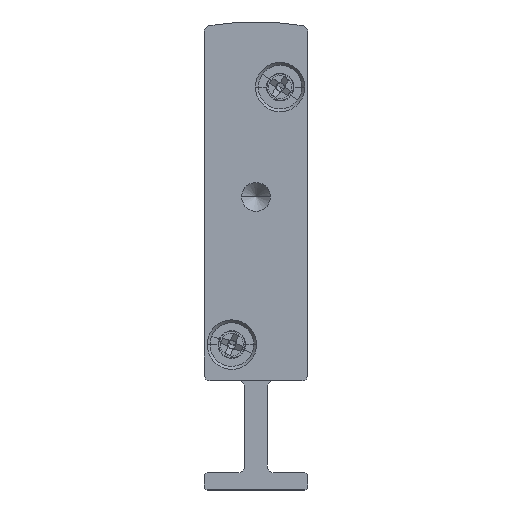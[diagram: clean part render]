
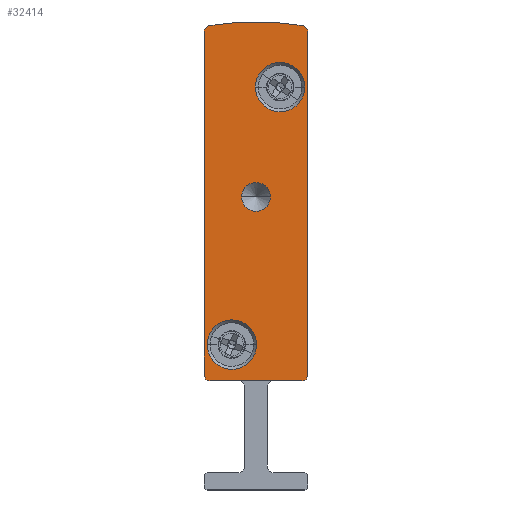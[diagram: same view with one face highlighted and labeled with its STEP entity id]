
A CAD part, front view. The second image highlights one B-rep face of the part: STEP entity #32414.
In plain terms, the highlighted planar face has unit normal (0, -1, 0).
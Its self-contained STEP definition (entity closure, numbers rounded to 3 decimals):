
#592 = CARTESIAN_POINT ( 'NONE',  ( 4.5, -2.5, 25.5 ) ) ;
#829 = CARTESIAN_POINT ( 'NONE',  ( 0.5, -2.5, 9.5 ) ) ;
#910 = DIRECTION ( 'NONE',  ( -1., 0., 0. ) ) ;
#1209 = EDGE_CURVE ( 'NONE', #27557, #11479, #27823, .T. ) ;
#1437 = CARTESIAN_POINT ( 'NONE',  ( 2.4, -2.5, 12.65 ) ) ;
#1661 = AXIS2_PLACEMENT_3D ( 'NONE', #17030, #2956, #5846 ) ;
#1664 = CIRCLE ( 'NONE', #22441, 2.15 ) ;
#1795 = EDGE_CURVE ( 'NONE', #15561, #4873, #24150, .T. ) ;
#1918 = CIRCLE ( 'NONE', #11337, 2.15 ) ;
#2294 = CARTESIAN_POINT ( 'NONE',  ( 0., -2.5, 39.902 ) ) ;
#2490 = DIRECTION ( 'NONE',  ( -1., 0., 0. ) ) ;
#2595 = EDGE_CURVE ( 'NONE', #19910, #15561, #26397, .T. ) ;
#2739 = EDGE_CURVE ( 'NONE', #11479, #27557, #4338, .T. ) ;
#2956 = DIRECTION ( 'NONE',  ( 0., 1., 0. ) ) ;
#3502 = ORIENTED_EDGE ( 'NONE', *, *, #12404, .F. ) ;
#3602 = CARTESIAN_POINT ( 'NONE',  ( 6.6, -2.5, 35.05 ) ) ;
#3994 = DIRECTION ( 'NONE',  ( 0., -1., 0. ) ) ;
#4016 = DIRECTION ( 'NONE',  ( -1., 0., 0. ) ) ;
#4338 = CIRCLE ( 'NONE', #25455, 2.15 ) ;
#4642 = CARTESIAN_POINT ( 'NONE',  ( 8.5, -2.5, 10. ) ) ;
#4873 = VERTEX_POINT ( 'NONE', #22226 ) ;
#5141 = VERTEX_POINT ( 'NONE', #829 ) ;
#5179 = CARTESIAN_POINT ( 'NONE',  ( 0.5, -2.5, 9.5 ) ) ;
#5279 = CIRCLE ( 'NONE', #28458, 0.5 ) ;
#5312 = DIRECTION ( 'NONE',  ( 1., 0., 0. ) ) ;
#5501 = VERTEX_POINT ( 'NONE', #17668 ) ;
#5615 = EDGE_CURVE ( 'NONE', #6338, #24689, #31275, .T. ) ;
#5749 = DIRECTION ( 'NONE',  ( 0., -1., 0. ) ) ;
#5846 = DIRECTION ( 'NONE',  ( -1., 0., 0. ) ) ;
#6338 = VERTEX_POINT ( 'NONE', #24972 ) ;
#6376 = VECTOR ( 'NONE', #28457, 1000. ) ;
#6782 = ORIENTED_EDGE ( 'NONE', *, *, #30866, .F. ) ;
#7370 = ORIENTED_EDGE ( 'NONE', *, *, #20924, .F. ) ;
#7519 = ORIENTED_EDGE ( 'NONE', *, *, #2595, .F. ) ;
#7592 = CARTESIAN_POINT ( 'NONE',  ( 4.5, -2.5, 25.5 ) ) ;
#7686 = ORIENTED_EDGE ( 'NONE', *, *, #1795, .F. ) ;
#7994 = CARTESIAN_POINT ( 'NONE',  ( 9., -2.5, 39.902 ) ) ;
#8205 = CARTESIAN_POINT ( 'NONE',  ( 9., -2.5, 10. ) ) ;
#8349 = AXIS2_PLACEMENT_3D ( 'NONE', #31207, #5749, #5312 ) ;
#8550 = EDGE_CURVE ( 'NONE', #4873, #17502, #18204, .T. ) ;
#8695 = DIRECTION ( 'NONE',  ( 0., -1., 0. ) ) ;
#8776 = AXIS2_PLACEMENT_3D ( 'NONE', #9014, #11594, #8783 ) ;
#8783 = DIRECTION ( 'NONE',  ( -1., 0., 0. ) ) ;
#8815 = CARTESIAN_POINT ( 'NONE',  ( 0.5, -2.5, 10. ) ) ;
#9014 = CARTESIAN_POINT ( 'NONE',  ( 4.5, -2.5, 17.092 ) ) ;
#9110 = AXIS2_PLACEMENT_3D ( 'NONE', #18690, #31601, #910 ) ;
#10361 = EDGE_LOOP ( 'NONE', ( #15528, #21473 ) ) ;
#10365 = EDGE_CURVE ( 'NONE', #30510, #15648, #1664, .T. ) ;
#10928 = DIRECTION ( 'NONE',  ( 0., 1., 0. ) ) ;
#11215 = EDGE_LOOP ( 'NONE', ( #7686, #7519, #27359, #6782, #3502, #31697, #18892, #32006 ) ) ;
#11337 = AXIS2_PLACEMENT_3D ( 'NONE', #1437, #3994, #21951 ) ;
#11402 = CARTESIAN_POINT ( 'NONE',  ( 4.45, -2.5, 35.05 ) ) ;
#11479 = VERTEX_POINT ( 'NONE', #30167 ) ;
#11594 = DIRECTION ( 'NONE',  ( 0., 1., 0. ) ) ;
#12404 = EDGE_CURVE ( 'NONE', #24689, #24984, #5279, .T. ) ;
#13437 = CIRCLE ( 'NONE', #27022, 1.25 ) ;
#13458 = DIRECTION ( 'NONE',  ( 0., 0., 1. ) ) ;
#13543 = CARTESIAN_POINT ( 'NONE',  ( 0., -2.5, 10. ) ) ;
#13548 = CIRCLE ( 'NONE', #1661, 0.5 ) ;
#13564 = VECTOR ( 'NONE', #13458, 1000. ) ;
#13618 = EDGE_CURVE ( 'NONE', #17502, #6338, #13548, .T. ) ;
#13873 = CARTESIAN_POINT ( 'NONE',  ( 8.592, -2.5, 40.393 ) ) ;
#14163 = AXIS2_PLACEMENT_3D ( 'NONE', #8815, #19065, #31973 ) ;
#14316 = DIRECTION ( 'NONE',  ( 0., 1., 0. ) ) ;
#15528 = ORIENTED_EDGE ( 'NONE', *, *, #17918, .T. ) ;
#15561 = VERTEX_POINT ( 'NONE', #2294 ) ;
#15648 = VERTEX_POINT ( 'NONE', #23008 ) ;
#16575 = CARTESIAN_POINT ( 'NONE',  ( 0.25, -2.5, 12.65 ) ) ;
#16928 = DIRECTION ( 'NONE',  ( 0., 1., 0. ) ) ;
#17030 = CARTESIAN_POINT ( 'NONE',  ( 8.5, -2.5, 39.902 ) ) ;
#17363 = VERTEX_POINT ( 'NONE', #18030 ) ;
#17502 = VERTEX_POINT ( 'NONE', #13873 ) ;
#17668 = CARTESIAN_POINT ( 'NONE',  ( 3.25, -2.5, 25.5 ) ) ;
#17918 = EDGE_CURVE ( 'NONE', #5501, #17363, #18031, .T. ) ;
#18030 = CARTESIAN_POINT ( 'NONE',  ( 5.75, -2.5, 25.5 ) ) ;
#18031 = CIRCLE ( 'NONE', #29871, 1.25 ) ;
#18184 = AXIS2_PLACEMENT_3D ( 'NONE', #32583, #14316, #4016 ) ;
#18204 = CIRCLE ( 'NONE', #8776, 23.658 ) ;
#18504 = CARTESIAN_POINT ( 'NONE',  ( 0., -2.5, 39.902 ) ) ;
#18690 = CARTESIAN_POINT ( 'NONE',  ( 0.5, -2.5, 39.902 ) ) ;
#18892 = ORIENTED_EDGE ( 'NONE', *, *, #13618, .F. ) ;
#19065 = DIRECTION ( 'NONE',  ( 0., 1., 0. ) ) ;
#19910 = VERTEX_POINT ( 'NONE', #13543 ) ;
#19980 = ORIENTED_EDGE ( 'NONE', *, *, #2739, .F. ) ;
#20924 = EDGE_CURVE ( 'NONE', #15648, #30510, #1918, .T. ) ;
#21473 = ORIENTED_EDGE ( 'NONE', *, *, #33013, .T. ) ;
#21951 = DIRECTION ( 'NONE',  ( 1., 0., 0. ) ) ;
#22226 = CARTESIAN_POINT ( 'NONE',  ( 0.408, -2.5, 40.393 ) ) ;
#22369 = FACE_BOUND ( 'NONE', #29543, .T. ) ;
#22441 = AXIS2_PLACEMENT_3D ( 'NONE', #32290, #29737, #29846 ) ;
#22905 = EDGE_CURVE ( 'NONE', #5141, #19910, #23234, .T. ) ;
#23008 = CARTESIAN_POINT ( 'NONE',  ( 4.55, -2.5, 12.65 ) ) ;
#23086 = EDGE_LOOP ( 'NONE', ( #19980, #30495 ) ) ;
#23234 = CIRCLE ( 'NONE', #14163, 0.5 ) ;
#23969 = FACE_BOUND ( 'NONE', #23086, .T. ) ;
#24150 = CIRCLE ( 'NONE', #9110, 0.5 ) ;
#24689 = VERTEX_POINT ( 'NONE', #8205 ) ;
#24972 = CARTESIAN_POINT ( 'NONE',  ( 9., -2.5, 39.902 ) ) ;
#24984 = VERTEX_POINT ( 'NONE', #30443 ) ;
#25455 = AXIS2_PLACEMENT_3D ( 'NONE', #3602, #8695, #31329 ) ;
#25545 = DIRECTION ( 'NONE',  ( 0., 1., 0. ) ) ;
#25982 = DIRECTION ( 'NONE',  ( -1., 0., 0. ) ) ;
#26375 = FACE_BOUND ( 'NONE', #10361, .T. ) ;
#26397 = LINE ( 'NONE', #18504, #13564 ) ;
#27022 = AXIS2_PLACEMENT_3D ( 'NONE', #592, #10928, #28936 ) ;
#27359 = ORIENTED_EDGE ( 'NONE', *, *, #22905, .F. ) ;
#27451 = PLANE ( 'NONE',  #18184 ) ;
#27557 = VERTEX_POINT ( 'NONE', #11402 ) ;
#27823 = CIRCLE ( 'NONE', #8349, 2.15 ) ;
#28387 = FACE_OUTER_BOUND ( 'NONE', #11215, .T. ) ;
#28457 = DIRECTION ( 'NONE',  ( 0., 0., -1. ) ) ;
#28458 = AXIS2_PLACEMENT_3D ( 'NONE', #4642, #16928, #29864 ) ;
#28936 = DIRECTION ( 'NONE',  ( -1., 0., 0. ) ) ;
#29385 = LINE ( 'NONE', #5179, #31432 ) ;
#29543 = EDGE_LOOP ( 'NONE', ( #7370, #29564 ) ) ;
#29564 = ORIENTED_EDGE ( 'NONE', *, *, #10365, .F. ) ;
#29737 = DIRECTION ( 'NONE',  ( 0., -1., 0. ) ) ;
#29846 = DIRECTION ( 'NONE',  ( 1., 0., 0. ) ) ;
#29864 = DIRECTION ( 'NONE',  ( -1., 0., 0. ) ) ;
#29871 = AXIS2_PLACEMENT_3D ( 'NONE', #7592, #25545, #25982 ) ;
#30167 = CARTESIAN_POINT ( 'NONE',  ( 8.75, -2.5, 35.05 ) ) ;
#30443 = CARTESIAN_POINT ( 'NONE',  ( 8.5, -2.5, 9.5 ) ) ;
#30495 = ORIENTED_EDGE ( 'NONE', *, *, #1209, .F. ) ;
#30510 = VERTEX_POINT ( 'NONE', #16575 ) ;
#30866 = EDGE_CURVE ( 'NONE', #24984, #5141, #29385, .T. ) ;
#31207 = CARTESIAN_POINT ( 'NONE',  ( 6.6, -2.5, 35.05 ) ) ;
#31275 = LINE ( 'NONE', #7994, #6376 ) ;
#31329 = DIRECTION ( 'NONE',  ( 1., 0., 0. ) ) ;
#31432 = VECTOR ( 'NONE', #2490, 1000. ) ;
#31601 = DIRECTION ( 'NONE',  ( 0., 1., 0. ) ) ;
#31697 = ORIENTED_EDGE ( 'NONE', *, *, #5615, .F. ) ;
#31973 = DIRECTION ( 'NONE',  ( -1., 0., 0. ) ) ;
#32006 = ORIENTED_EDGE ( 'NONE', *, *, #8550, .F. ) ;
#32290 = CARTESIAN_POINT ( 'NONE',  ( 2.4, -2.5, 12.65 ) ) ;
#32414 = ADVANCED_FACE ( 'NONE', ( #23969, #22369, #28387, #26375 ), #27451, .F. ) ;
#32583 = CARTESIAN_POINT ( 'NONE',  ( 0.5, -2.5, 39.902 ) ) ;
#33013 = EDGE_CURVE ( 'NONE', #17363, #5501, #13437, .T. ) ;
